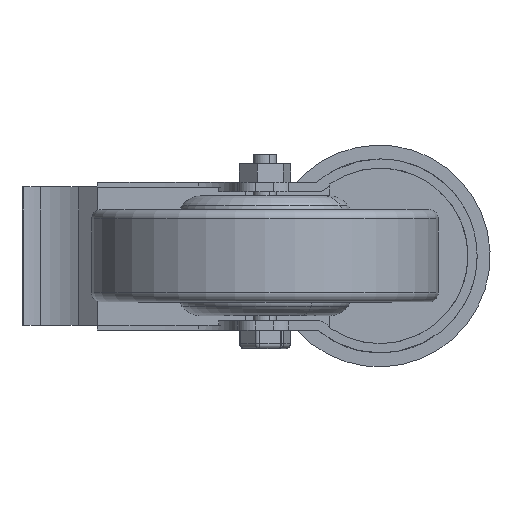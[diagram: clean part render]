
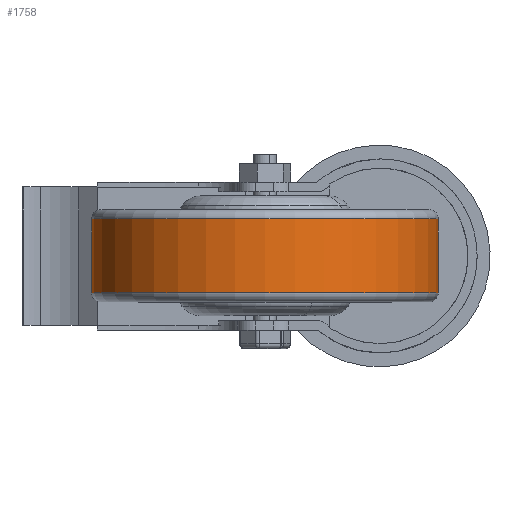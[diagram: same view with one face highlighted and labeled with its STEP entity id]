
A CAD part, front view. The second image highlights one B-rep face of the part: STEP entity #1758.
In plain terms, the highlighted cylindrical face has radius 37.5 mm (diameter 75 mm), a partial arc.
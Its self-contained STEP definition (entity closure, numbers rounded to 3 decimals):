
#121 = LINE ( 'NONE', #6121, #5553 ) ;
#384 = VECTOR ( 'NONE', #1198, 1000. ) ;
#448 = AXIS2_PLACEMENT_3D ( 'NONE', #4276, #590, #3207 ) ;
#590 = DIRECTION ( 'NONE',  ( 0., 0., -1. ) ) ;
#620 = DIRECTION ( 'NONE',  ( 0., 0., -1. ) ) ;
#873 = ORIENTED_EDGE ( 'NONE', *, *, #1828, .T. ) ;
#952 = CARTESIAN_POINT ( 'NONE',  ( -59.625, 15.113, 2. ) ) ;
#1062 = AXIS2_PLACEMENT_3D ( 'NONE', #3770, #620, #4303 ) ;
#1198 = DIRECTION ( 'NONE',  ( 0., 0., -1. ) ) ;
#1758 = ADVANCED_FACE ( 'NONE', ( #4899 ), #4728, .T. ) ;
#1828 = EDGE_CURVE ( 'NONE', #4348, #5869, #5778, .T. ) ;
#1916 = VERTEX_POINT ( 'NONE', #5429 ) ;
#2223 = CARTESIAN_POINT ( 'NONE',  ( 15.375, 15.113, 2. ) ) ;
#2299 = DIRECTION ( 'NONE',  ( 0., 0., 1. ) ) ;
#2552 = ORIENTED_EDGE ( 'NONE', *, *, #3599, .T. ) ;
#2759 = CARTESIAN_POINT ( 'NONE',  ( -59.625, 15.113, 20. ) ) ;
#2995 = CARTESIAN_POINT ( 'NONE',  ( -59.625, 15.113, 18. ) ) ;
#3207 = DIRECTION ( 'NONE',  ( -1., 0., 0. ) ) ;
#3261 = CIRCLE ( 'NONE', #5091, 37.5 ) ;
#3599 = EDGE_CURVE ( 'NONE', #1916, #4348, #5375, .T. ) ;
#3770 = CARTESIAN_POINT ( 'NONE',  ( -22.125, 15.113, 18. ) ) ;
#4276 = CARTESIAN_POINT ( 'NONE',  ( -22.125, 15.113, 20. ) ) ;
#4303 = DIRECTION ( 'NONE',  ( 1., 0., 0. ) ) ;
#4348 = VERTEX_POINT ( 'NONE', #2995 ) ;
#4728 = CYLINDRICAL_SURFACE ( 'NONE', #448, 37.5 ) ;
#4899 = FACE_OUTER_BOUND ( 'NONE', #5580, .T. ) ;
#5091 = AXIS2_PLACEMENT_3D ( 'NONE', #5430, #2299, #5966 ) ;
#5231 = ORIENTED_EDGE ( 'NONE', *, *, #5565, .T. ) ;
#5375 = CIRCLE ( 'NONE', #1062, 37.5 ) ;
#5429 = CARTESIAN_POINT ( 'NONE',  ( 15.375, 15.113, 18. ) ) ;
#5430 = CARTESIAN_POINT ( 'NONE',  ( -22.125, 15.113, 2. ) ) ;
#5553 = VECTOR ( 'NONE', #5588, 1000. ) ;
#5565 = EDGE_CURVE ( 'NONE', #5869, #6393, #3261, .T. ) ;
#5580 = EDGE_LOOP ( 'NONE', ( #5726, #2552, #873, #5231 ) ) ;
#5588 = DIRECTION ( 'NONE',  ( 0., 0., -1. ) ) ;
#5726 = ORIENTED_EDGE ( 'NONE', *, *, #6648, .F. ) ;
#5778 = LINE ( 'NONE', #2759, #384 ) ;
#5869 = VERTEX_POINT ( 'NONE', #952 ) ;
#5966 = DIRECTION ( 'NONE',  ( 1., 0., 0. ) ) ;
#6121 = CARTESIAN_POINT ( 'NONE',  ( 15.375, 15.113, 20. ) ) ;
#6393 = VERTEX_POINT ( 'NONE', #2223 ) ;
#6648 = EDGE_CURVE ( 'NONE', #1916, #6393, #121, .T. ) ;
